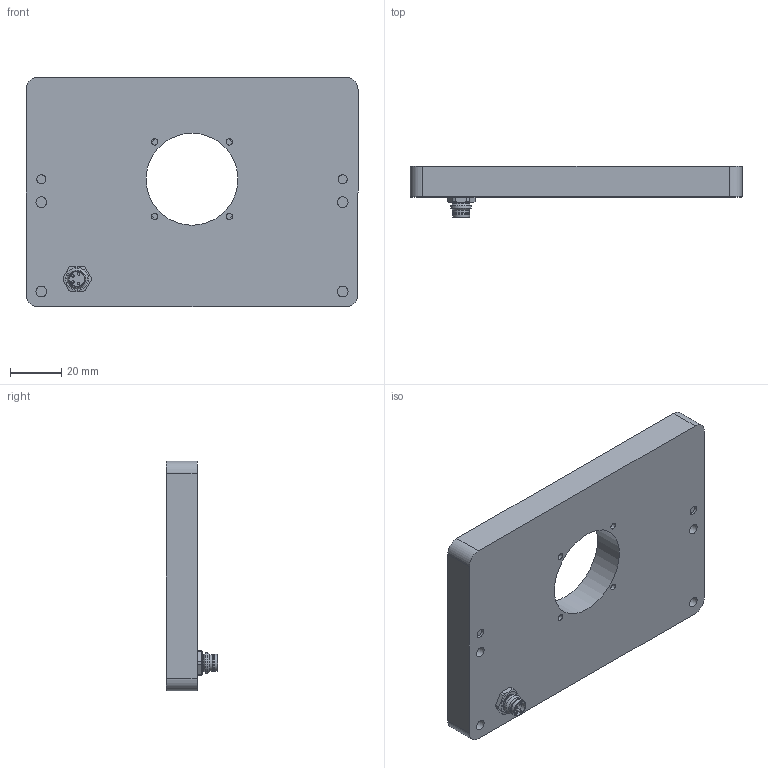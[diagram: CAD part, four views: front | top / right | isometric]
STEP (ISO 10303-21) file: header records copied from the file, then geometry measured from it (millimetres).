
FILE_DESCRIPTION (( 'STEP AP214' ), '1' );
FILE_NAME ('01823.01 Basisbaugruppe DTL-0510 Step17082020.STEP', '2020-08-17T08:41:28', ( '' ), ( '' ), 'SwSTEP 2.0', 'SolidWorks 2013', '' );
FILE_SCHEMA (( 'AUTOMOTIVE_DESIGN' ));
Length unit declared in the file: millimetre
Products named in the file (1): 01823.01 Basisbaugruppe DTL-0510 Step17082020
Bounding box: 130 x 20 x 90 mm (x, y, z)
Surface area: 37491 mm2 (no closed solid volume)
Topology: 0 solids, 9 shells, 77 faces, 205 edges, 142 vertices
Faces by surface type: cylinder 38, plane 32, cone 5, bspline 2
Full cylindrical faces by diameter (mm): 1 x4, 2.5 x4, 3.5 x2, 4.2 x4, 5.8 x1, 6.5 x2, 6.9 x1, 8 x1, 36 x1, 37.6 x1, 38 x2, 43 x1
Entity records: 3765 total; most frequent: CARTESIAN_POINT 1126, DIRECTION 388, ORIENTED_EDGE 272, EDGE_CURVE 165, AXIS2_PLACEMENT_3D 162, VERTEX_POINT 133, EDGE_LOOP 127, FACE_OUTER_BOUND 103
